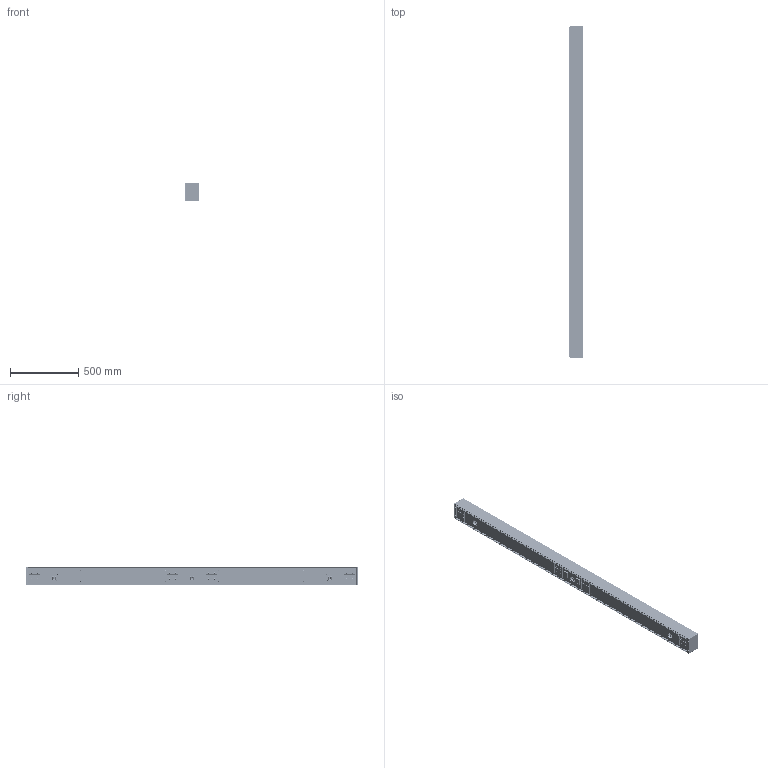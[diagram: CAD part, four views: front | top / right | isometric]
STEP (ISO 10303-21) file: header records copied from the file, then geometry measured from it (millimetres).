
FILE_DESCRIPTION (( 'STEP AP203' ), '1' );
FILE_NAME ('943300 RevA P3m-LCR Assembly.STEP', '2026-06-25T18:06:09', ( '' ), ( '' ), 'SwSTEP 2.0', 'SolidWorks 2026', '' );
FILE_SCHEMA (( 'CONFIG_CONTROL_DESIGN' ));
Length unit declared in the file: inch
Products named in the file (59): 149510-01 RevA1 P3m Woofer Phase Plug; 120560 Screw 8-32x1_2 FH Phillips Blk Oxide SS_96640A126; 403170 RevA P3m Back Mounting Gasket; PMD tweeter Front Plate flat sealing Rev H; Terminal Post; 5862K103_0.250Dx0.125t Neodymium Magnet_5862K103; 149520-04 RevA P3m Phase Plug Gasket_Compressed; 403170 RevA P3m Back Mounting Gasket_End Caps; 149520-03 RevA P3m Front Driver Baffle Gasket_Compressed; 149520-05 RevA P3m PMD Gasket_Compressed; 151510 RevA P3m-LCR Filler Plate; 161000 Terminal Cup 3 Inch OD Push Terminals; 149510-02 RevA P3m Woofer Gasket_Compressed; 149510-03 SI ITB-832_SI ITB-832; 149510-04 SI IUTFB-632_SI IUTFB-632; 149520 RevA3 P3m Front Driver Baffle Assembly_Compressed Gasket; 200003-3-2-solid1_1; 406500 RevE Bracket Onwall Speaker Portion; 190250 RevA P3m Resonator Damping Foam_Compressed; 149520-02 RevA3 P3m Grill Magnet; 149530 RevA Bass Driver 4-1_2in Clamp Ring; 149540 RevA P3m Internal Divider Block; 360078-1-solid1_1; 310005-2-solid1_1; 149520-01 RevA2 P3m Front Driver Baffle; 120630 Screw 8-32x1-1_2 FH Phillips Blk_96640A168; 200003-2-1-solid1_1; 120950 Nut KEP 8-32 Zinc_90675A009; 149510 RevA1 P3m Woofer Phase Plug Assembly_Compressed Gasket; Sprial PMD housing Rev H; Color Dot_Black. >; 200003-4-1-solid1_1; Terminal Cup; 260074-1-solid1_1; WF118WA07_08; 121310 Screw 6-32x3_8 FH Philips Blk SS_96640A115; 190300 RevB Terminal Cup 3in Gasket_Compressed; 149550 RevA P3m End Cap; 3in SA Fiber Board Assy; 260074-1-solid2_1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
Assembly tree (293 placements, depth 5):
  943300 RevA P3m-LCR Assembly
    151500 RevA P3m-LCR Back Box
    151510 RevA P3m-LCR Filler Plate  x2
    149500 RevA P3m Perf Grill
    403170 RevA P3m Back Mounting Gasket  x2
    149550 RevA P3m End Cap  x2
    403170 RevA P3m Back Mounting Gasket_End Caps  x2
    149560 RevA P3m VESA Mounting Block  x2
    406500 RevE Bracket Onwall Speaker Portion  x4
    TBD RevA P3m Module Assembly  x3
      149520 RevA3 P3m Front Driver Baffle Assembly_Compressed Gasket
        149520-01 RevA2 P3m Front Driver Baffle
        149520-02 RevA3 P3m Grill Magnet  x14
        149520-03 RevA P3m Front Driver Baffle Gasket_Compressed
        149520-04 RevA P3m Phase Plug Gasket_Compressed  x2
        149520-05 RevA P3m PMD Gasket_Compressed
      149510 RevA1 P3m Woofer Phase Plug Assembly_Compressed Gasket
        149510-01 RevA1 P3m Woofer Phase Plug
        149510-04 SI IUTFB-632_SI IUTFB-632  x2
        149510-03 SI ITB-832_SI ITB-832  x4
        149510-02 RevA P3m Woofer Gasket_Compressed
      WF118WA07_08
        220068 60 degree-1-solid1_1
        200003-4-1-solid1_1
        260074-1-solid2_1
        200003-2-1-solid1_1
        200003-1-1-solid1_1
        360078-1-solid1_1
        370038-1-solid1_1
        260074-1-solid1_1
        110047-2-solid1_1
        310005-2-solid1_1
        200003-3-2-solid1_1
        230042-1-solid1_1
        100064-1-solid1_1
      149530 RevA Bass Driver 4-1_2in Clamp Ring
      220190 RevA P3m Crossover
      PMD tweeter housing ASSY Rev H
        PMD tweeter Front Plate flat sealing Rev H
        Sprial PMD housing Rev H
        3in SA Fiber Board Assy
          Connector DC Jack Fiber Board
      121310 Screw 6-32x3_8 FH Philips Blk SS_96640A115
      120630 Screw 8-32x1-1_2 FH Phillips Blk_96640A168
      120950 Nut KEP 8-32 Zinc_90675A009
      121540 Washer #8 Oversized Black Oxide SS_96659A129
      190250 RevA P3m Resonator Damping Foam_Compressed
    161000 Terminal Cup 3 Inch OD Push Terminals  x3
      Terminal Cup
      Terminal Post
      Color Dot
      Color Dot_Black. >
    190300 RevB Terminal Cup 3in Gasket_Compressed  x3
    149540 RevA P3m Internal Divider Block  x4
    120560 Screw 8-32x1_2 FH Phillips Blk Oxide SS_96640A126  x52
    120110 Screw 8-32x3_8 Pan Phil MS Stl Blk Zinc_91249A192  x40
    120670 Screw 8-32x5_8 FH Phil Blk Zinc_96640A127  x16
    120260 Nut Nylock 8-32 Stainless Steel_91831A009  x12
    5862K103_0.250Dx0.125t Neodymium Magnet_5862K103  x42
Bounding box: 98.56 x 2438.4 x 133.35 mm (x, y, z)
Volume: 7737985.9 mm3; surface area: 5095661.1 mm2
Topology: 568 solids, 568 shells, 25634 faces, 65955 edges, 41767 vertices
Faces by surface type: plane 7654, cylinder 5860, cone 5781, bspline 3419, torus 2753, sphere 167
Entity records: 147976 total; most frequent: CARTESIAN_POINT 48443, DIRECTION 18437, ORIENTED_EDGE 18178, EDGE_CURVE 9089, AXIS2_PLACEMENT_3D 7678, VERTEX_POINT 5759, EDGE_LOOP 4244, CIRCLE 4193
